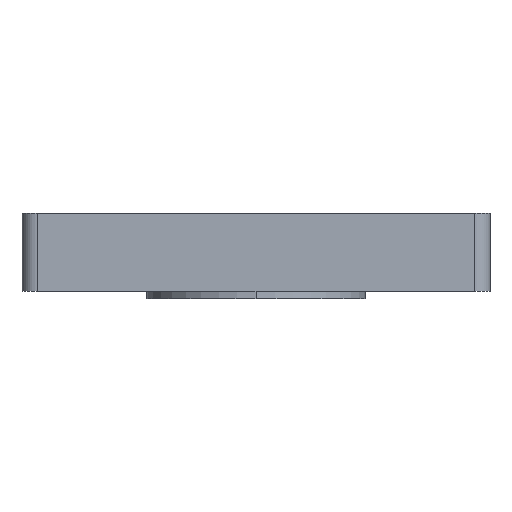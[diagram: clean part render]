
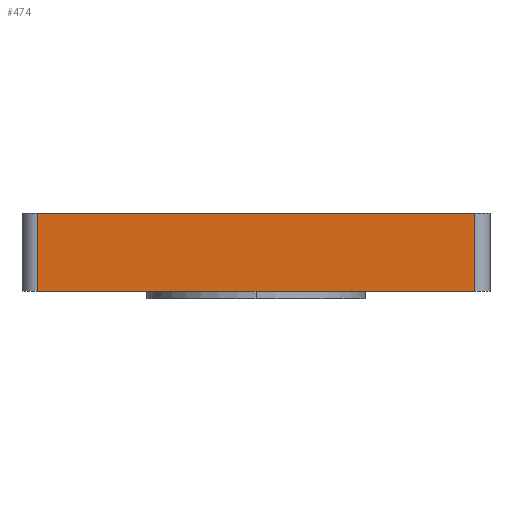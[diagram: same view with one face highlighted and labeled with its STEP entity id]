
A CAD part, left-side view. The second image highlights one B-rep face of the part: STEP entity #474.
In plain terms, the highlighted planar face has unit normal (-1, 0, 0).
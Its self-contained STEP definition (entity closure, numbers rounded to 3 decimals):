
#22 = DIRECTION ( 'NONE',  ( 0., -1., 0. ) ) ;
#85 = LINE ( 'NONE', #1123, #838 ) ;
#155 = VERTEX_POINT ( 'NONE', #1191 ) ;
#270 = CARTESIAN_POINT ( 'NONE',  ( -30., -28., 10. ) ) ;
#290 = ORIENTED_EDGE ( 'NONE', *, *, #411, .T. ) ;
#291 = ORIENTED_EDGE ( 'NONE', *, *, #1087, .T. ) ;
#400 = VERTEX_POINT ( 'NONE', #1235 ) ;
#411 = EDGE_CURVE ( 'NONE', #400, #1167, #1107, .T. ) ;
#474 = ADVANCED_FACE ( 'NONE', ( #948 ), #989, .F. ) ;
#497 = CARTESIAN_POINT ( 'NONE',  ( -30., -28., 10. ) ) ;
#589 = CARTESIAN_POINT ( 'NONE',  ( -30., 28., 10. ) ) ;
#591 = LINE ( 'NONE', #1014, #1348 ) ;
#730 = ORIENTED_EDGE ( 'NONE', *, *, #861, .T. ) ;
#826 = EDGE_LOOP ( 'NONE', ( #730, #290, #1352, #291 ) ) ;
#838 = VECTOR ( 'NONE', #1019, 1000. ) ;
#861 = EDGE_CURVE ( 'NONE', #155, #400, #1326, .T. ) ;
#948 = FACE_OUTER_BOUND ( 'NONE', #826, .T. ) ;
#989 = PLANE ( 'NONE',  #1252 ) ;
#1014 = CARTESIAN_POINT ( 'NONE',  ( -30., -30., 10. ) ) ;
#1019 = DIRECTION ( 'NONE',  ( 0., 0., -1. ) ) ;
#1087 = EDGE_CURVE ( 'NONE', #1712, #155, #85, .T. ) ;
#1107 = LINE ( 'NONE', #270, #1304 ) ;
#1123 = CARTESIAN_POINT ( 'NONE',  ( -30., 28., 10. ) ) ;
#1167 = VERTEX_POINT ( 'NONE', #497 ) ;
#1175 = VECTOR ( 'NONE', #1495, 1000. ) ;
#1191 = CARTESIAN_POINT ( 'NONE',  ( -30., 28., 0. ) ) ;
#1235 = CARTESIAN_POINT ( 'NONE',  ( -30., -28., 0. ) ) ;
#1252 = AXIS2_PLACEMENT_3D ( 'NONE', #1704, #1277, #1556 ) ;
#1277 = DIRECTION ( 'NONE',  ( 1., 0., 0. ) ) ;
#1304 = VECTOR ( 'NONE', #1385, 1000. ) ;
#1326 = LINE ( 'NONE', #1789, #1175 ) ;
#1348 = VECTOR ( 'NONE', #22, 1000. ) ;
#1352 = ORIENTED_EDGE ( 'NONE', *, *, #1739, .F. ) ;
#1385 = DIRECTION ( 'NONE',  ( 0., 0., 1. ) ) ;
#1495 = DIRECTION ( 'NONE',  ( 0., -1., 0. ) ) ;
#1556 = DIRECTION ( 'NONE',  ( 0., 0., -1. ) ) ;
#1704 = CARTESIAN_POINT ( 'NONE',  ( -30., -30., 10. ) ) ;
#1712 = VERTEX_POINT ( 'NONE', #589 ) ;
#1739 = EDGE_CURVE ( 'NONE', #1712, #1167, #591, .T. ) ;
#1789 = CARTESIAN_POINT ( 'NONE',  ( -30., -30., 0. ) ) ;
